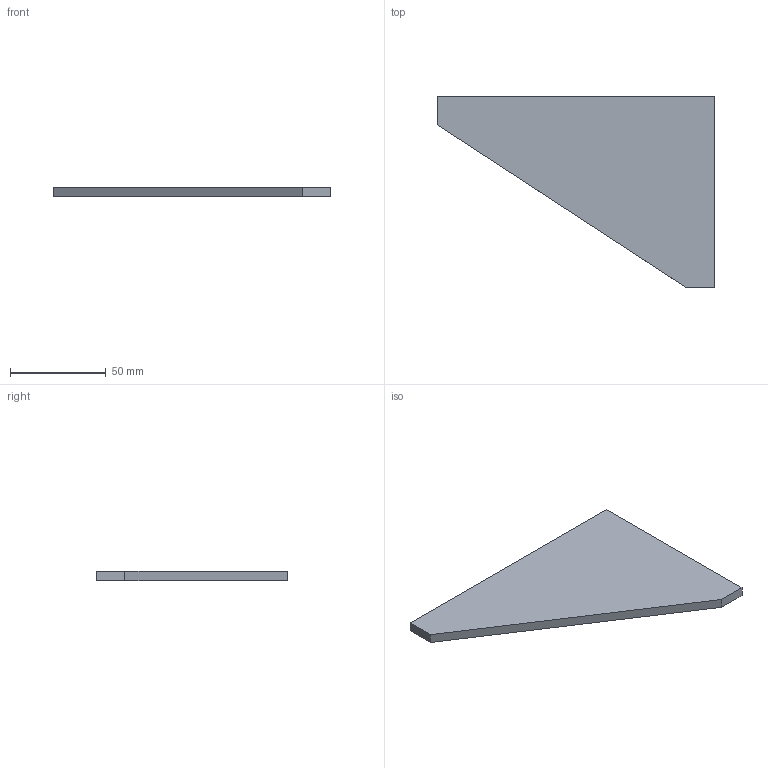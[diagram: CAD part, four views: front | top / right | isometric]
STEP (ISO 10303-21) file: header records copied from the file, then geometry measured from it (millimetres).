
FILE_DESCRIPTION(/* description */ (''),/* implementation_level */ '2;1');
FILE_NAME(/* name */ '2020TOMO-TELAIO-ASSY.00_v12-Part_09.stp',/* time_stamp */ '2022-05-16T13:35:16+02:00',/* author */ (''),/* organization */ (''),/* preprocessor_version */ 'ST-DEVELOPER v18.102',/* originating_system */ 'SIEMENS PLM Software NX 2000',/* authorisation */ '');
FILE_SCHEMA (('AUTOMOTIVE_DESIGN { 1 0 10303 214 3 1 1 1 }'));
Length unit declared in the file: millimetre
Products named in the file (1): turc3144724Fyy6z
Bounding box: 145 x 100 x 5 mm (x, y, z)
Volume: 44875 mm3; surface area: 20101.6 mm2
Topology: 1 solids, 1 shells, 7 faces, 15 edges, 10 vertices
Faces by surface type: plane 7
Entity records: 221 total; most frequent: CARTESIAN_POINT 33, DIRECTION 31, ORIENTED_EDGE 30, EDGE_CURVE 15, LINE 15, VECTOR 15, VERTEX_POINT 10, AXIS2_PLACEMENT_3D 8
